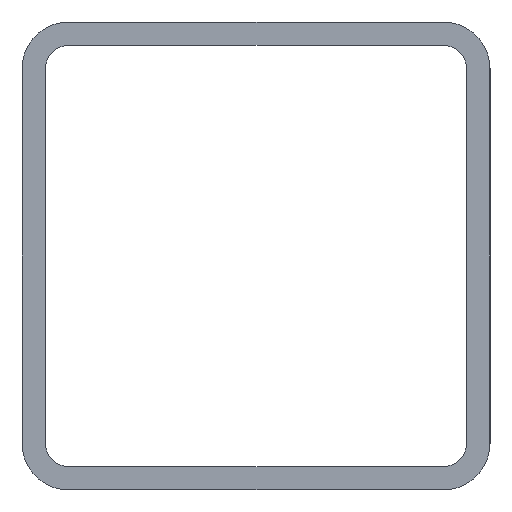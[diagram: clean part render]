
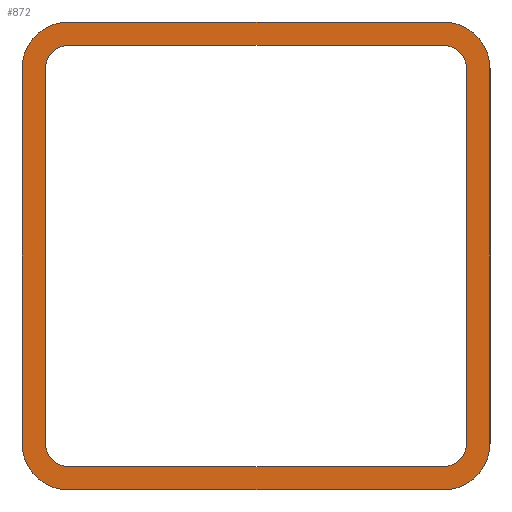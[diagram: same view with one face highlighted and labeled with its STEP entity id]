
A CAD part, left-side view. The second image highlights one B-rep face of the part: STEP entity #872.
In plain terms, the highlighted planar face has unit normal (-1, 0, 0).
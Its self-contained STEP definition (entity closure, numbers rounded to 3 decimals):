
#103=CARTESIAN_POINT('Vertex',(-130.,4.5,-4.)) ;
#117=CARTESIAN_POINT('Vertex',(-130.,4.5,4.)) ;
#120=CARTESIAN_POINT('Line Origine',(-130.,4.5,0.)) ;
#189=CARTESIAN_POINT('Axis2P3D Location',(-130.,4.,-4.)) ;
#193=CARTESIAN_POINT('Vertex',(-130.,4.,-4.5)) ;
#219=CARTESIAN_POINT('Vertex',(-130.,-4.,-4.5)) ;
#227=CARTESIAN_POINT('Line Origine',(-130.,0.,-4.5)) ;
#244=CARTESIAN_POINT('Axis2P3D Location',(-130.,-4.,4.)) ;
#248=CARTESIAN_POINT('Vertex',(-130.,-4.,4.5)) ;
#250=CARTESIAN_POINT('Vertex',(-130.,-4.5,4.)) ;
#284=CARTESIAN_POINT('Axis2P3D Location',(-130.,-4.,-4.)) ;
#288=CARTESIAN_POINT('Vertex',(-130.,-4.5,-4.)) ;
#367=CARTESIAN_POINT('Line Origine',(-130.,0.,4.5)) ;
#371=CARTESIAN_POINT('Vertex',(-130.,4.,4.5)) ;
#398=CARTESIAN_POINT('Line Origine',(-130.,-4.5,0.)) ;
#467=CARTESIAN_POINT('Vertex',(-130.,-5.,-4.)) ;
#470=CARTESIAN_POINT('Axis2P3D Location',(-130.,-4.,-4.)) ;
#474=CARTESIAN_POINT('Vertex',(-130.,-4.,-5.)) ;
#505=CARTESIAN_POINT('Vertex',(-130.,-5.,4.)) ;
#508=CARTESIAN_POINT('Line Origine',(-130.,-5.,0.)) ;
#558=CARTESIAN_POINT('Vertex',(-130.,-4.,5.)) ;
#561=CARTESIAN_POINT('Axis2P3D Location',(-130.,-4.,4.)) ;
#589=CARTESIAN_POINT('Vertex',(-130.,4.,5.)) ;
#592=CARTESIAN_POINT('Line Origine',(-130.,0.,5.)) ;
#620=CARTESIAN_POINT('Vertex',(-130.,5.,4.)) ;
#623=CARTESIAN_POINT('Axis2P3D Location',(-130.,4.,4.)) ;
#653=CARTESIAN_POINT('Vertex',(-130.,4.,-5.)) ;
#656=CARTESIAN_POINT('Axis2P3D Location',(-130.,4.,-4.)) ;
#660=CARTESIAN_POINT('Vertex',(-130.,5.,-4.)) ;
#680=CARTESIAN_POINT('Line Origine',(-130.,0.,-5.)) ;
#702=CARTESIAN_POINT('Axis2P3D Location',(-130.,4.,4.)) ;
#755=CARTESIAN_POINT('Line Origine',(-130.,5.,0.)) ;
#847=CARTESIAN_POINT('Axis2P3D Location',(-130.,0.,0.)) ;
#121=DIRECTION('Vector Direction',(0.,0.,-1.)) ;
#190=DIRECTION('Axis2P3D Direction',(1.,0.,0.)) ;
#228=DIRECTION('Vector Direction',(0.,-1.,0.)) ;
#245=DIRECTION('Axis2P3D Direction',(1.,0.,0.)) ;
#285=DIRECTION('Axis2P3D Direction',(1.,0.,0.)) ;
#368=DIRECTION('Vector Direction',(0.,1.,0.)) ;
#399=DIRECTION('Vector Direction',(0.,0.,1.)) ;
#471=DIRECTION('Axis2P3D Direction',(1.,0.,0.)) ;
#509=DIRECTION('Vector Direction',(0.,0.,1.)) ;
#562=DIRECTION('Axis2P3D Direction',(1.,0.,0.)) ;
#593=DIRECTION('Vector Direction',(0.,1.,0.)) ;
#624=DIRECTION('Axis2P3D Direction',(1.,0.,-0.)) ;
#657=DIRECTION('Axis2P3D Direction',(1.,0.,0.)) ;
#681=DIRECTION('Vector Direction',(0.,-1.,0.)) ;
#703=DIRECTION('Axis2P3D Direction',(1.,0.,-0.)) ;
#756=DIRECTION('Vector Direction',(0.,0.,-1.)) ;
#848=DIRECTION('Axis2P3D Direction',(1.,0.,0.)) ;
#849=DIRECTION('Axis2P3D XDirection',(0.,1.,0.)) ;
#191=AXIS2_PLACEMENT_3D('Circle Axis2P3D',#189,#190,$) ;
#246=AXIS2_PLACEMENT_3D('Circle Axis2P3D',#244,#245,$) ;
#286=AXIS2_PLACEMENT_3D('Circle Axis2P3D',#284,#285,$) ;
#472=AXIS2_PLACEMENT_3D('Circle Axis2P3D',#470,#471,$) ;
#563=AXIS2_PLACEMENT_3D('Circle Axis2P3D',#561,#562,$) ;
#625=AXIS2_PLACEMENT_3D('Circle Axis2P3D',#623,#624,$) ;
#658=AXIS2_PLACEMENT_3D('Circle Axis2P3D',#656,#657,$) ;
#704=AXIS2_PLACEMENT_3D('Circle Axis2P3D',#702,#703,$) ;
#850=AXIS2_PLACEMENT_3D('Plane Axis2P3D',#847,#848,#849) ;
#853=ORIENTED_EDGE('',*,*,#476,.T.) ;
#854=ORIENTED_EDGE('',*,*,#512,.F.) ;
#855=ORIENTED_EDGE('',*,*,#565,.T.) ;
#856=ORIENTED_EDGE('',*,*,#596,.F.) ;
#857=ORIENTED_EDGE('',*,*,#627,.T.) ;
#858=ORIENTED_EDGE('',*,*,#759,.F.) ;
#859=ORIENTED_EDGE('',*,*,#662,.T.) ;
#860=ORIENTED_EDGE('',*,*,#684,.F.) ;
#863=ORIENTED_EDGE('',*,*,#402,.F.) ;
#864=ORIENTED_EDGE('',*,*,#290,.T.) ;
#865=ORIENTED_EDGE('',*,*,#231,.F.) ;
#866=ORIENTED_EDGE('',*,*,#195,.T.) ;
#867=ORIENTED_EDGE('',*,*,#124,.F.) ;
#868=ORIENTED_EDGE('',*,*,#706,.T.) ;
#869=ORIENTED_EDGE('',*,*,#373,.F.) ;
#870=ORIENTED_EDGE('',*,*,#252,.T.) ;
#871=FACE_BOUND('',#862,.T.) ;
#122=VECTOR('Line Direction',#121,1.) ;
#229=VECTOR('Line Direction',#228,1.) ;
#369=VECTOR('Line Direction',#368,1.) ;
#400=VECTOR('Line Direction',#399,1.) ;
#510=VECTOR('Line Direction',#509,1.) ;
#594=VECTOR('Line Direction',#593,1.) ;
#682=VECTOR('Line Direction',#681,1.) ;
#757=VECTOR('Line Direction',#756,1.) ;
#872=ADVANCED_FACE('Corps principal',(#861,#871),#851,.F.) ;
#192=CIRCLE('generated circle',#191,0.5) ;
#247=CIRCLE('generated circle',#246,0.5) ;
#287=CIRCLE('generated circle',#286,0.5) ;
#473=CIRCLE('generated circle',#472,1.) ;
#564=CIRCLE('generated circle',#563,1.) ;
#626=CIRCLE('generated circle',#625,1.) ;
#659=CIRCLE('generated circle',#658,1.) ;
#705=CIRCLE('generated circle',#704,0.5) ;
#124=EDGE_CURVE('',#118,#104,#123,.T.) ;
#195=EDGE_CURVE('',#194,#104,#192,.T.) ;
#231=EDGE_CURVE('',#194,#220,#230,.T.) ;
#252=EDGE_CURVE('',#249,#251,#247,.T.) ;
#290=EDGE_CURVE('',#289,#220,#287,.T.) ;
#373=EDGE_CURVE('',#249,#372,#370,.T.) ;
#402=EDGE_CURVE('',#289,#251,#401,.T.) ;
#476=EDGE_CURVE('',#475,#468,#473,.F.) ;
#512=EDGE_CURVE('',#506,#468,#511,.F.) ;
#565=EDGE_CURVE('',#506,#559,#564,.F.) ;
#596=EDGE_CURVE('',#590,#559,#595,.F.) ;
#627=EDGE_CURVE('',#590,#621,#626,.F.) ;
#662=EDGE_CURVE('',#661,#654,#659,.F.) ;
#684=EDGE_CURVE('',#475,#654,#683,.F.) ;
#706=EDGE_CURVE('',#118,#372,#705,.T.) ;
#759=EDGE_CURVE('',#661,#621,#758,.F.) ;
#852=EDGE_LOOP('',(#853,#854,#855,#856,#857,#858,#859,#860)) ;
#862=EDGE_LOOP('',(#863,#864,#865,#866,#867,#868,#869,#870)) ;
#861=FACE_OUTER_BOUND('',#852,.T.) ;
#123=LINE('Line',#120,#122) ;
#230=LINE('Line',#227,#229) ;
#370=LINE('Line',#367,#369) ;
#401=LINE('Line',#398,#400) ;
#511=LINE('Line',#508,#510) ;
#595=LINE('Line',#592,#594) ;
#683=LINE('Line',#680,#682) ;
#758=LINE('Line',#755,#757) ;
#851=PLANE('',#850) ;
#104=VERTEX_POINT('',#103) ;
#118=VERTEX_POINT('',#117) ;
#194=VERTEX_POINT('',#193) ;
#220=VERTEX_POINT('',#219) ;
#249=VERTEX_POINT('',#248) ;
#251=VERTEX_POINT('',#250) ;
#289=VERTEX_POINT('',#288) ;
#372=VERTEX_POINT('',#371) ;
#468=VERTEX_POINT('',#467) ;
#475=VERTEX_POINT('',#474) ;
#506=VERTEX_POINT('',#505) ;
#559=VERTEX_POINT('',#558) ;
#590=VERTEX_POINT('',#589) ;
#621=VERTEX_POINT('',#620) ;
#654=VERTEX_POINT('',#653) ;
#661=VERTEX_POINT('',#660) ;
